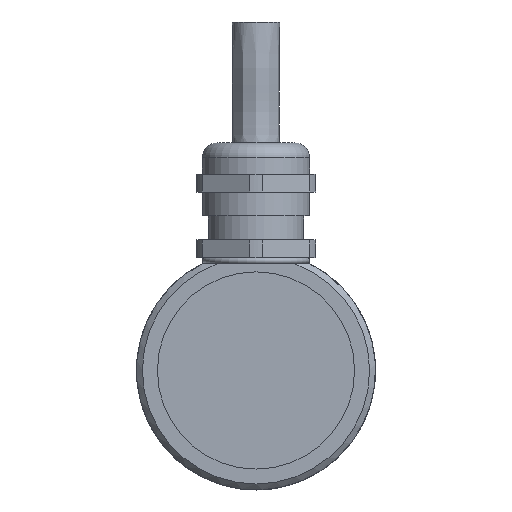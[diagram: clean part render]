
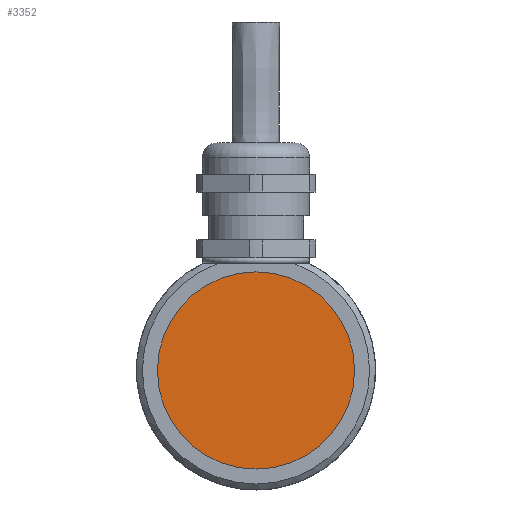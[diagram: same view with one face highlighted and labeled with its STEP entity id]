
A CAD part, left-side view. The second image highlights one B-rep face of the part: STEP entity #3352.
In plain terms, the highlighted planar face has unit normal (-1, 0, 0).
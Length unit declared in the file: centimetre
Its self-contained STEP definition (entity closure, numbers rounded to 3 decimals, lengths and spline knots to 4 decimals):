
#753=CIRCLE('',#3550,1.65);
#925=VERTEX_POINT('',#4856);
#1775=EDGE_CURVE('',#925,#925,#753,.T.);
#2343=ORIENTED_EDGE('',*,*,#1775,.T.);
#2964=EDGE_LOOP('',(#2343));
#3161=FACE_BOUND('',#2964,.T.);
#3352=ADVANCED_FACE('',(#3161),#6070,.T.);
#3550=AXIS2_PLACEMENT_3D('',#4855,#3936,#3937);
#3552=AXIS2_PLACEMENT_3D('',#4859,#3940,$);
#3936=DIRECTION('',(-1.,0.,0.));
#3937=DIRECTION('',(0.,0.,1.65));
#3940=DIRECTION('',(-1.,0.,0.));
#4855=CARTESIAN_POINT('',(0.1,0.,0.));
#4856=CARTESIAN_POINT('',(0.1,0.,1.65));
#4859=CARTESIAN_POINT('',(0.1,0.,0.));
#6070=PLANE('',#3552);
